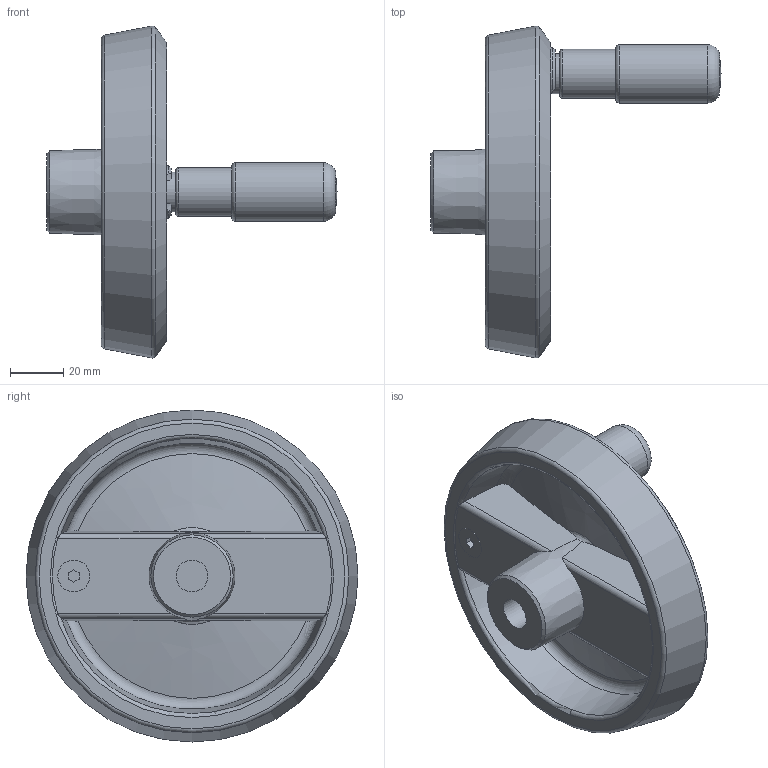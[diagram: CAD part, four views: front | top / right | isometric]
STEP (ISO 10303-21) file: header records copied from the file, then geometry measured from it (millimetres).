
FILE_DESCRIPTION( ( 'STEP AP203' ), '1' );
FILE_NAME( 'C:/Temp/Ganter_Step_05_03_2020/data/1_3/gn_923_7/gn_923_7_b/Handwheel with retractable handle GN 923.7-125-B12-R-SR (activated).stp', '2020-03-05T10:39:55', ( 'License CC BY-ND 4.0' ), ( 'CADENAS' ), ' ', 'PARTsolutions', ' ' );
FILE_SCHEMA( ( 'CONFIG_CONTROL_DESIGN' ) );
Length unit declared in the file: millimetre
Products named in the file (3): Handwheel with retractable handle GN 923.7-125-B12-R-SR (activated); _Umleggriff-Handrad GN 923.7-125-B12-R-SR-1; _Umleggriff-Handrad GN 923.7-125-B12-R-SR (90)-2
Assembly tree (2 placements, depth 2):
  Handwheel with retractable handle GN 923.7-125-B12-R-SR (activated)
    _Umleggriff-Handrad GN 923.7-125-B12-R-SR-1
    _Umleggriff-Handrad GN 923.7-125-B12-R-SR (90)-2
Bounding box: 109.2 x 125 x 125 mm (x, y, z)
Volume: 174339.5 mm3; surface area: 54230.3 mm2
Topology: 2 solids, 2 shells, 108 faces, 259 edges, 163 vertices
Faces by surface type: plane 44, cylinder 26, cone 15, torus 15, bspline 6, sphere 2
Full cylindrical faces by diameter (mm): 4 x2, 6 x1, 8 x1, 12 x2, 15 x1, 18.5 x1, 20 x1, 22 x1, 23 x2
Entity records: 3422 total; most frequent: CARTESIAN_POINT 975, DIRECTION 496, ORIENTED_EDGE 446, EDGE_CURVE 223, AXIS2_PLACEMENT_3D 212, VERTEX_POINT 157, EDGE_LOOP 147, FACE_OUTER_BOUND 127
